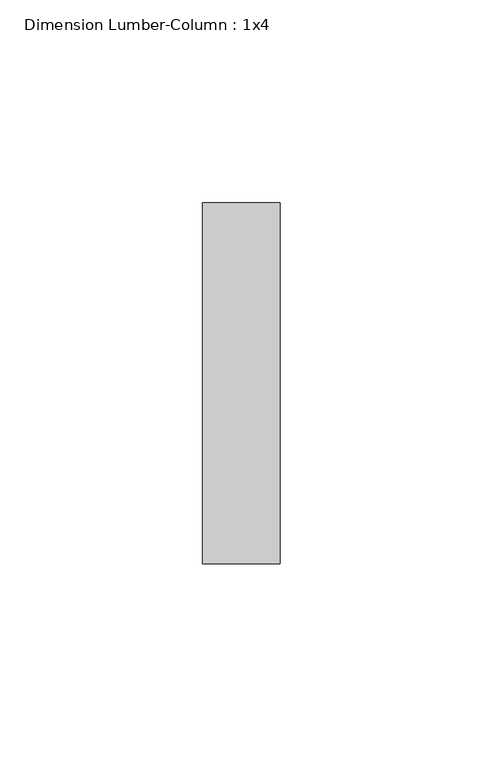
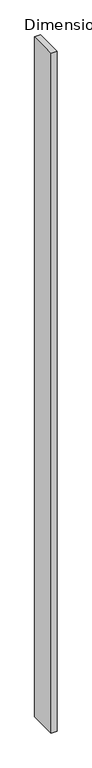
"""IFC4 building model written with IfcOpenShell, lengths in millimetres: column geometry, Dimension Lumber-Column : 1x4."""

from ifc_helpers import new_model, si_unit, frame, origin, place, context, project, spatial, polyline, outline, extrude, source, transform, mapped, element, save


def dimension_lumber_column_1x4_ffc65492(model_context):
    return source(origin(), model_context, "Body", "SweptSolid", [
        extrude(outline(polyline([(9.525, 44.45), (9.525, -44.45), (-9.525, -44.45), (-9.525, 44.45), (9.525, 44.45)])), frame((0.0, 0.0, -101.6), z_axis=(0.0, 0.0, 1.0), x_axis=(1.0, 0.0, 0.0)), (0.0, 0.0, 1.0), 2266.95),
    ])


if __name__ == "__main__":
    model = new_model("IFC4")
    model_context = context("Model", 3, world=origin())
    ifc_project = project(units=[si_unit("LENGTHUNIT", "METRE", prefix="MILLI")], contexts=[model_context])
    site = spatial("IfcSite", under=ifc_project)
    building = spatial("IfcBuilding", under=site)
    placement = place(None, origin())
    dimension_lumber_column_1x4_shape = dimension_lumber_column_1x4_ffc65492(model_context)
    element("IfcColumn", 1, ObjectType="Dimension Lumber-Column : 1x4", at=placement, inside=building, context=model_context, shape_type="MappedRepresentation", body=[
        mapped(dimension_lumber_column_1x4_shape, transform((0.0, 0.0, 0.0), x_axis=(1.0, 0.0, 0.0), y_axis=(0.0, 1.0, 0.0), z_axis=(0.0, 0.0, 1.0))),
    ])
    save(model, "model.ifc")
